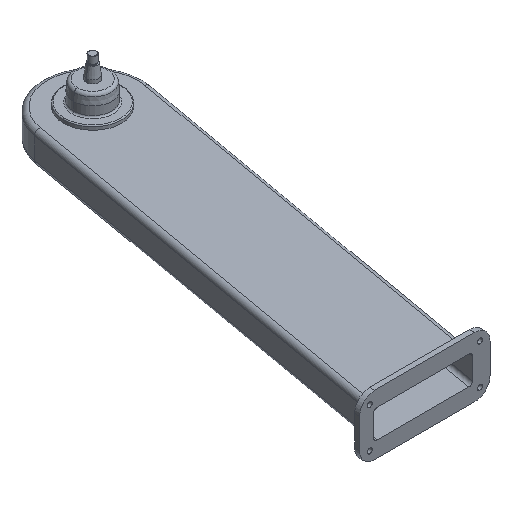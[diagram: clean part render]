
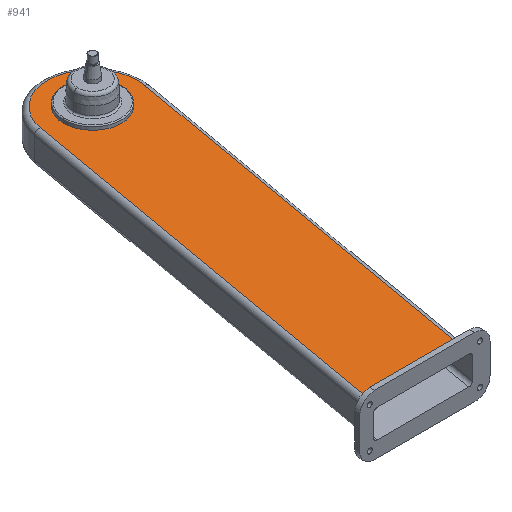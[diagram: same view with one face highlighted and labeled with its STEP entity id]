
A CAD part, isometric view. The second image highlights one B-rep face of the part: STEP entity #941.
In plain terms, the highlighted planar face has unit normal (0, 0, 1).
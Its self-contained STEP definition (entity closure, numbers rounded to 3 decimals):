
#54 = PLANE ( 'NONE',  #327 ) ;
#56 = DIRECTION ( 'NONE',  ( 1., 0., 0. ) ) ;
#158 = EDGE_CURVE ( 'NONE', #422, #398, #364, .T. ) ;
#327 = AXIS2_PLACEMENT_3D ( 'NONE', #1743, #482, #1946 ) ;
#361 = DIRECTION ( 'NONE',  ( 0., 0., 1. ) ) ;
#364 = CIRCLE ( 'NONE', #2285, 90. ) ;
#377 = CIRCLE ( 'NONE', #1219, 58. ) ;
#398 = VERTEX_POINT ( 'NONE', #785 ) ;
#421 = CARTESIAN_POINT ( 'NONE',  ( 0., 0., 31.25 ) ) ;
#422 = VERTEX_POINT ( 'NONE', #798 ) ;
#482 = DIRECTION ( 'NONE',  ( 0., 0., 1. ) ) ;
#484 = DIRECTION ( 'NONE',  ( -0.174, -0.985, 0. ) ) ;
#496 = VERTEX_POINT ( 'NONE', #1245 ) ;
#548 = AXIS2_PLACEMENT_3D ( 'NONE', #2289, #1119, #2458 ) ;
#559 = ORIENTED_EDGE ( 'NONE', *, *, #2115, .T. ) ;
#571 = EDGE_LOOP ( 'NONE', ( #907, #1785 ) ) ;
#620 = CARTESIAN_POINT ( 'NONE',  ( 88.633, -15.628, 31.25 ) ) ;
#638 = DIRECTION ( 'NONE',  ( 1., 0., 0. ) ) ;
#649 = VERTEX_POINT ( 'NONE', #1920 ) ;
#734 = EDGE_CURVE ( 'NONE', #398, #2106, #831, .T. ) ;
#785 = CARTESIAN_POINT ( 'NONE',  ( -88.633, 15.628, 31.25 ) ) ;
#798 = CARTESIAN_POINT ( 'NONE',  ( 90., 0., 31.25 ) ) ;
#831 = LINE ( 'NONE', #1548, #1884 ) ;
#840 = DIRECTION ( 'NONE',  ( 0.174, 0.985, 0. ) ) ;
#907 = ORIENTED_EDGE ( 'NONE', *, *, #1577, .F. ) ;
#912 = DIRECTION ( 'NONE',  ( 0., 0., 1. ) ) ;
#934 = CIRCLE ( 'NONE', #548, 90. ) ;
#941 = ADVANCED_FACE ( 'NONE', ( #2024, #1498 ), #54, .T. ) ;
#1003 = LINE ( 'NONE', #2114, #2034 ) ;
#1019 = ORIENTED_EDGE ( 'NONE', *, *, #734, .T. ) ;
#1119 = DIRECTION ( 'NONE',  ( 0., 0., 1. ) ) ;
#1123 = VECTOR ( 'NONE', #840, 1000. ) ;
#1126 = ORIENTED_EDGE ( 'NONE', *, *, #2104, .T. ) ;
#1193 = LINE ( 'NONE', #620, #1123 ) ;
#1219 = AXIS2_PLACEMENT_3D ( 'NONE', #421, #1899, #638 ) ;
#1245 = CARTESIAN_POINT ( 'NONE',  ( -58., 0., 31.25 ) ) ;
#1272 = AXIS2_PLACEMENT_3D ( 'NONE', #1642, #361, #1847 ) ;
#1317 = ORIENTED_EDGE ( 'NONE', *, *, #158, .T. ) ;
#1327 = CARTESIAN_POINT ( 'NONE',  ( -228.923, -780., 31.25 ) ) ;
#1349 = EDGE_CURVE ( 'NONE', #1506, #1568, #1193, .T. ) ;
#1401 = ORIENTED_EDGE ( 'NONE', *, *, #1349, .T. ) ;
#1498 = FACE_BOUND ( 'NONE', #571, .T. ) ;
#1506 = VERTEX_POINT ( 'NONE', #1818 ) ;
#1548 = CARTESIAN_POINT ( 'NONE',  ( -232.756, -801.736, 31.25 ) ) ;
#1568 = VERTEX_POINT ( 'NONE', #2193 ) ;
#1577 = EDGE_CURVE ( 'NONE', #649, #496, #2553, .T. ) ;
#1642 = CARTESIAN_POINT ( 'NONE',  ( 0., 0., 31.25 ) ) ;
#1728 = EDGE_CURVE ( 'NONE', #496, #649, #377, .T. ) ;
#1743 = CARTESIAN_POINT ( 'NONE',  ( 0., 0., 31.25 ) ) ;
#1785 = ORIENTED_EDGE ( 'NONE', *, *, #1728, .F. ) ;
#1818 = CARTESIAN_POINT ( 'NONE',  ( -46.147, -780., 31.25 ) ) ;
#1847 = DIRECTION ( 'NONE',  ( 1., 0., 0. ) ) ;
#1884 = VECTOR ( 'NONE', #484, 1000. ) ;
#1899 = DIRECTION ( 'NONE',  ( 0., 0., 1. ) ) ;
#1920 = CARTESIAN_POINT ( 'NONE',  ( 58., 0., 31.25 ) ) ;
#1946 = DIRECTION ( 'NONE',  ( 1., 0., 0. ) ) ;
#2024 = FACE_OUTER_BOUND ( 'NONE', #2074, .T. ) ;
#2034 = VECTOR ( 'NONE', #56, 1000. ) ;
#2074 = EDGE_LOOP ( 'NONE', ( #1019, #1126, #1401, #559, #1317 ) ) ;
#2104 = EDGE_CURVE ( 'NONE', #2106, #1506, #1003, .T. ) ;
#2106 = VERTEX_POINT ( 'NONE', #1327 ) ;
#2114 = CARTESIAN_POINT ( 'NONE',  ( 0., -780., 31.25 ) ) ;
#2115 = EDGE_CURVE ( 'NONE', #1568, #422, #934, .T. ) ;
#2128 = CARTESIAN_POINT ( 'NONE',  ( 0., 0., 31.25 ) ) ;
#2193 = CARTESIAN_POINT ( 'NONE',  ( 88.633, -15.628, 31.25 ) ) ;
#2285 = AXIS2_PLACEMENT_3D ( 'NONE', #2128, #912, #2297 ) ;
#2289 = CARTESIAN_POINT ( 'NONE',  ( 0., 0., 31.25 ) ) ;
#2297 = DIRECTION ( 'NONE',  ( 1., 0., 0. ) ) ;
#2458 = DIRECTION ( 'NONE',  ( 1., 0., 0. ) ) ;
#2553 = CIRCLE ( 'NONE', #1272, 58. ) ;
